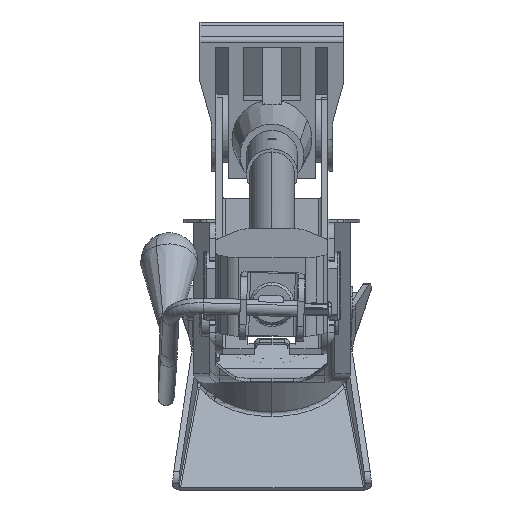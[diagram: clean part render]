
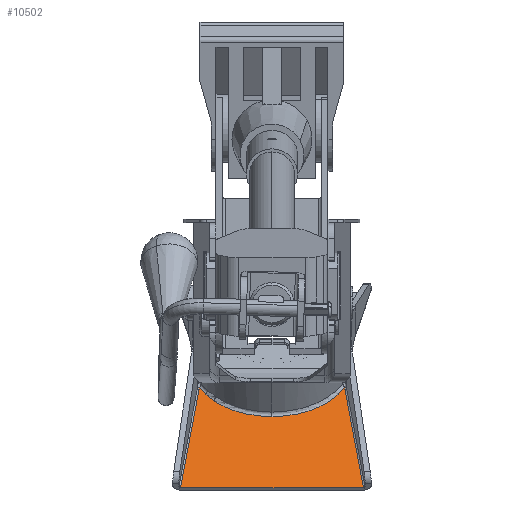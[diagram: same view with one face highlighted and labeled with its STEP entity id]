
A CAD part, front view. The second image highlights one B-rep face of the part: STEP entity #10502.
In plain terms, the highlighted planar face has unit normal (0, -0.643, 0.766) as drawn and (0, 0, 1) by its records, which use the part's own axes.
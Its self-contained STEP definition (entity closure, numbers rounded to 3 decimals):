
#8643=CARTESIAN_POINT('Axis2P3D Location',(0.,0.,0.)) ;
#10001=CARTESIAN_POINT('Vertex',(11.58,22.719,0.)) ;
#10008=CARTESIAN_POINT('Vertex',(25.5,0.,0.)) ;
#10011=CARTESIAN_POINT('Axis2P3D Location',(0.,0.,0.)) ;
#10192=CARTESIAN_POINT('Control Point',(11.58,22.719,0.)) ;
#10193=CARTESIAN_POINT('Control Point',(11.703,22.733,0.)) ;
#10194=CARTESIAN_POINT('Control Point',(11.825,22.747,0.)) ;
#10195=CARTESIAN_POINT('Control Point',(11.947,22.761,0.)) ;
#10196=CARTESIAN_POINT('Control Point',(12.07,22.776,0.)) ;
#10197=CARTESIAN_POINT('Control Point',(12.192,22.79,0.)) ;
#10198=CARTESIAN_POINT('Vertex',(12.193,22.791,0.)) ;
#10226=CARTESIAN_POINT('Vertex',(60.,28.582,0.)) ;
#10229=CARTESIAN_POINT('Line Origine',(35.368,25.598,0.)) ;
#10297=CARTESIAN_POINT('Vertex',(60.,-28.582,0.)) ;
#10307=CARTESIAN_POINT('Line Origine',(60.,0.,0.)) ;
#10463=CARTESIAN_POINT('Vertex',(11.58,-22.719,0.)) ;
#10466=CARTESIAN_POINT('Axis2P3D Location',(0.,0.,0.)) ;
#10479=CARTESIAN_POINT('Control Point',(12.192,-22.79,0.)) ;
#10480=CARTESIAN_POINT('Control Point',(12.07,-22.776,0.)) ;
#10481=CARTESIAN_POINT('Control Point',(11.947,-22.761,0.)) ;
#10482=CARTESIAN_POINT('Control Point',(11.825,-22.747,0.)) ;
#10483=CARTESIAN_POINT('Control Point',(11.703,-22.733,0.)) ;
#10484=CARTESIAN_POINT('Control Point',(11.58,-22.719,0.)) ;
#10485=CARTESIAN_POINT('Vertex',(12.193,-22.791,0.)) ;
#10488=CARTESIAN_POINT('Line Origine',(36.096,-25.686,0.)) ;
#8644=DIRECTION('Axis2P3D Direction',(0.,0.,1.)) ;
#8645=DIRECTION('Axis2P3D XDirection',(1.,0.,0.)) ;
#10012=DIRECTION('Axis2P3D Direction',(0.,0.,1.)) ;
#10230=DIRECTION('Vector Direction',(-0.993,-0.12,0.)) ;
#10308=DIRECTION('Vector Direction',(0.,-1.,0.)) ;
#10467=DIRECTION('Axis2P3D Direction',(0.,0.,1.)) ;
#10489=DIRECTION('Vector Direction',(-0.993,0.12,0.)) ;
#8646=AXIS2_PLACEMENT_3D('Plane Axis2P3D',#8643,#8644,#8645) ;
#10013=AXIS2_PLACEMENT_3D('Circle Axis2P3D',#10011,#10012,$) ;
#10468=AXIS2_PLACEMENT_3D('Circle Axis2P3D',#10466,#10467,$) ;
#10494=ORIENTED_EDGE('',*,*,#10311,.F.) ;
#10495=ORIENTED_EDGE('',*,*,#10233,.F.) ;
#10496=ORIENTED_EDGE('',*,*,#10200,.F.) ;
#10497=ORIENTED_EDGE('',*,*,#10015,.T.) ;
#10498=ORIENTED_EDGE('',*,*,#10470,.T.) ;
#10499=ORIENTED_EDGE('',*,*,#10487,.T.) ;
#10500=ORIENTED_EDGE('',*,*,#10492,.T.) ;
#10231=VECTOR('Line Direction',#10230,1.) ;
#10309=VECTOR('Line Direction',#10308,1.) ;
#10490=VECTOR('Line Direction',#10489,1.) ;
#10502=ADVANCED_FACE('PartBody',(#10501),#8647,.T.) ;
#10191=B_SPLINE_CURVE_WITH_KNOTS('',5,(#10192,#10193,#10194,#10195,#10196,#10197),.UNSPECIFIED.,.F.,.U.,(6,6),(18.34,19.391),.UNSPECIFIED.) ;
#10478=B_SPLINE_CURVE_WITH_KNOTS('',5,(#10479,#10480,#10481,#10482,#10483,#10484),.UNSPECIFIED.,.F.,.U.,(6,6),(26.653,27.704),.UNSPECIFIED.) ;
#10014=CIRCLE('generated circle',#10013,25.5) ;
#10469=CIRCLE('generated circle',#10468,25.5) ;
#10015=EDGE_CURVE('',#10002,#10009,#10014,.F.) ;
#10200=EDGE_CURVE('',#10002,#10199,#10191,.T.) ;
#10233=EDGE_CURVE('',#10199,#10227,#10232,.F.) ;
#10311=EDGE_CURVE('',#10227,#10298,#10310,.T.) ;
#10470=EDGE_CURVE('',#10009,#10464,#10469,.F.) ;
#10487=EDGE_CURVE('',#10464,#10486,#10478,.F.) ;
#10492=EDGE_CURVE('',#10486,#10298,#10491,.F.) ;
#10493=EDGE_LOOP('',(#10494,#10495,#10496,#10497,#10498,#10499,#10500)) ;
#10501=FACE_OUTER_BOUND('',#10493,.T.) ;
#10232=LINE('Line',#10229,#10231) ;
#10310=LINE('Line',#10307,#10309) ;
#10491=LINE('Line',#10488,#10490) ;
#8647=PLANE('Plane',#8646) ;
#10002=VERTEX_POINT('',#10001) ;
#10009=VERTEX_POINT('',#10008) ;
#10199=VERTEX_POINT('',#10198) ;
#10227=VERTEX_POINT('',#10226) ;
#10298=VERTEX_POINT('',#10297) ;
#10464=VERTEX_POINT('',#10463) ;
#10486=VERTEX_POINT('',#10485) ;
